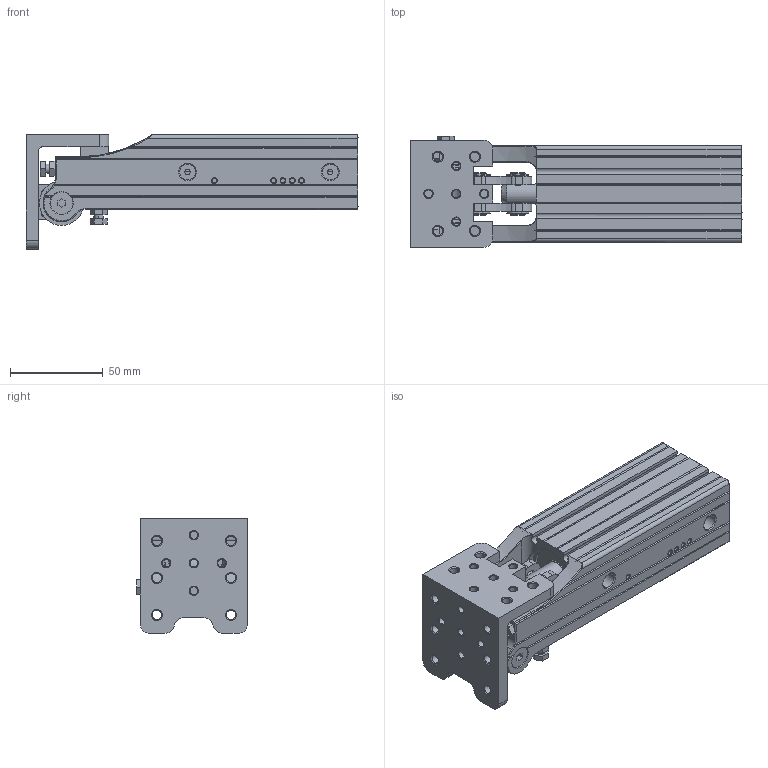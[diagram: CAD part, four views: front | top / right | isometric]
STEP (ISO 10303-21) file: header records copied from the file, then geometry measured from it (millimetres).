
FILE_DESCRIPTION((''),'2;1');
FILE_NAME('DHR2C-32M40ZG-LB-TB_ASM','2019-03-15T',('Administrator'),(''),'PRO/ENGINEER BY PARAMETRIC TECHNOLOGY CORPORATION, 2009280','PRO/ENGINEER BY PARAMETRIC TECHNOLOGY CORPORATION, 2009280','');
FILE_SCHEMA(('CONFIG_CONTROL_DESIGN'));
Length unit declared in the file: millimetre
Products named in the file (27): XBT-32001-01; HOUGAI-32M40; 0H-32; HOUGAI_ASM; QIANGAI-32M40; TONGTAO-12X14X20; PDU-12; QIANGAI_ASM; KH-32; BENTI_ASM; LD-32M5X12; HUOSAI-32M40; HSG-32HSG001-010; 32NAIMOHUAN; JLXZ-32ZHOU001-004; M5-JINDINGLUODING; HUOSAIGANZUJIAN_ASM; 1024-ZHOUCHENGPIAN; ZHZC-32ZUHEZC001-007; DHR2C-32M40-LB; HANYOUZHOUCHENG-10; JLP-32PIAN001-003; DHR2C32M40ZG-CEZIBAN_ASM; KH-32HUAN001-005; ZHG-32ZHB001-0008; LD-32M5001-009; DHR2C-32M40ZG-LB-TB_ASM
Assembly tree (43 placements, depth 4):
  DHR2C-32M40ZG-LB-TB_ASM
    BENTI_ASM
      XBT-32001-01
      HOUGAI_ASM
        HOUGAI-32M40
        0H-32
      QIANGAI_ASM
        QIANGAI-32M40
        TONGTAO-12X14X20
        PDU-12  x2
        0H-32  x2
      KH-32  x2
    LD-32M5X12  x5
    HUOSAIGANZUJIAN_ASM
      HUOSAI-32M40
      HSG-32HSG001-010
      32NAIMOHUAN
      JLXZ-32ZHOU001-004
      M5-JINDINGLUODING
    1024-ZHOUCHENGPIAN  x2
    ZHZC-32ZUHEZC001-007  x2
    DHR2C32M40ZG-CEZIBAN_ASM
      DHR2C-32M40-LB
      HANYOUZHOUCHENG-10  x2
      JLXZ-32ZHOU001-004
      JLP-32PIAN001-003  x2
    KH-32HUAN001-005  x4
    ZHG-32ZHB001-0008
    LD-32M5001-009  x2
Bounding box: 179.2 x 59.9 x 62 mm (x, y, z)
Volume: 265675.9 mm3; surface area: 111262.6 mm2
Topology: 64 solids, 64 shells, 1155 faces, 2719 edges, 1671 vertices
Faces by surface type: plane 437, cylinder 410, cone 242, sphere 48, torus 14, bspline 4
Entity records: 25917 total; most frequent: CARTESIAN_POINT 4957, DIRECTION 4647, ORIENTED_EDGE 3978, EDGE_CURVE 1989, AXIS2_PLACEMENT_3D 1829, VERTEX_POINT 1249, EDGE_LOOP 1002, VECTOR 989
